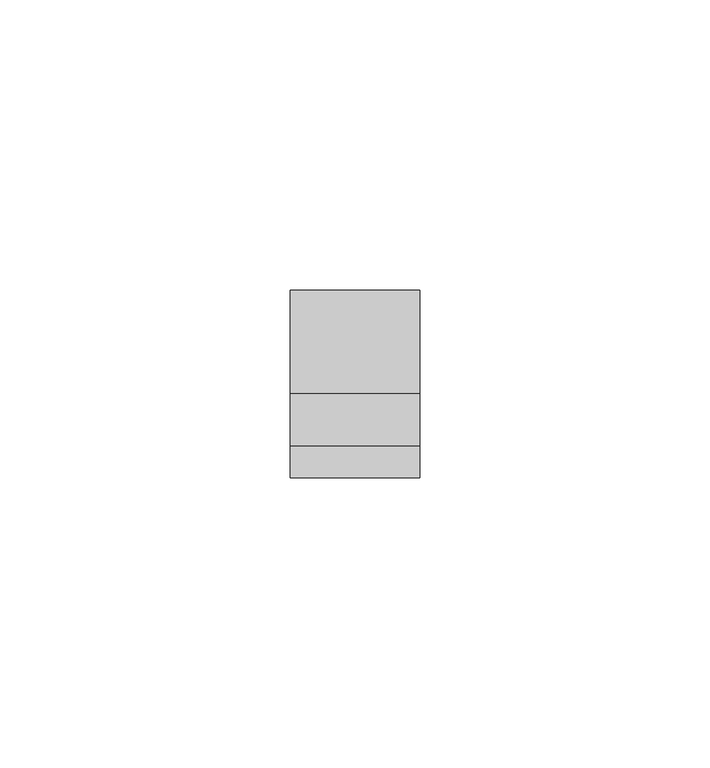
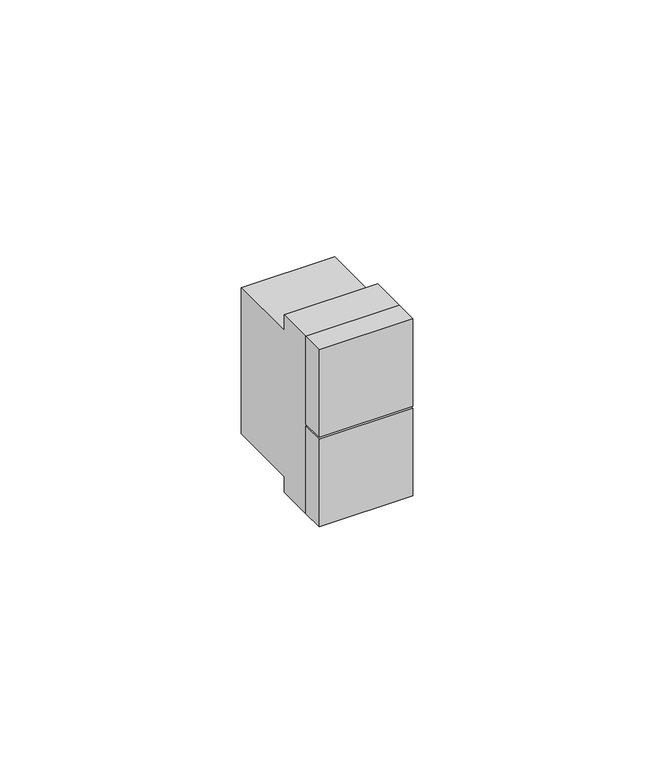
"""IFC4 building model written with IfcOpenShell, lengths in millimetres: proxy geometry."""

from ifc_helpers import new_model, si_unit, frame, origin, place, context, project, spatial, polyline, outline, extrude, source, transform, mapped, element, save


def electrical_fixtures_78a1f117(model_context):
    return source(origin(), model_context, "Body", "SweptSolid", [
        extrude(outline(polyline([(0.0, -34.7), (22.4, -34.7), (22.4, -40.2), (0.0, -40.2), (0.0, -34.7)])), frame((0.0, 0.0, -22.45), z_axis=(0.0, 0.0, 1.0), x_axis=(1.0, 0.0, 0.0)), (0.0, 0.0, 1.0), 22.2),
        extrude(outline(polyline([(0.0, -34.7), (22.4, -34.7), (22.4, -40.2), (0.0, -40.2), (0.0, -34.7)])), frame((0.0, 0.0, 0.25), z_axis=(0.0, 0.0, 1.0), x_axis=(1.0, 0.0, 0.0)), (0.0, 0.0, 1.0), 22.2),
        extrude(outline(polyline([(-25.7, 22.45), (-25.7, 18.5), (-7.8, 18.5), (-7.8, -18.5), (-25.7, -18.5), (-25.7, -22.45), (-34.7, -22.45), (-34.7, 22.45), (-25.7, 22.45)])), frame((0.0, 0.0, 0.0), z_axis=(1.0, 0.0, 0.0), x_axis=(0.0, 1.0, 0.0)), (0.0, 0.0, 1.0), 22.4),
    ])


if __name__ == "__main__":
    model = new_model("IFC4")
    model_context = context("Model", 3, world=origin())
    ifc_project = project(units=[si_unit("LENGTHUNIT", "METRE", prefix="MILLI")], contexts=[model_context])
    site = spatial("IfcSite", under=ifc_project)
    building = spatial("IfcBuilding", under=site)
    placement = place(None, origin())
    electrical_fixtures_shape = electrical_fixtures_78a1f117(model_context)
    element("IfcBuildingElementProxy", 1, Name="Electrical Fixtures", at=placement, inside=building, context=model_context, shape_type="MappedRepresentation", body=[
        mapped(electrical_fixtures_shape, transform((0.0, 0.0, 0.0), x_axis=(1.0, 0.0, 0.0), y_axis=(0.0, 1.0, 0.0), z_axis=(0.0, 0.0, 1.0))),
    ])
    save(model, "model.ifc")
